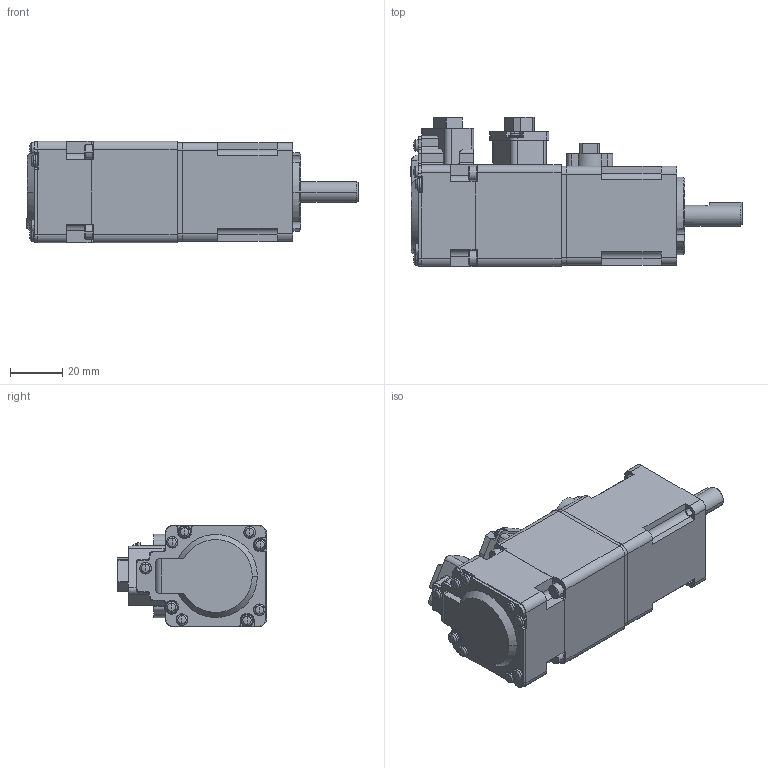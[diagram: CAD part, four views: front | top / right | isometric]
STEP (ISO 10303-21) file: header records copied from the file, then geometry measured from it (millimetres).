
FILE_DESCRIPTION( ( '' ), '1' );
FILE_NAME( '//expscmdclustefs.cadenas.external/client_exchange/iodir/jobs/output/wkb53693784_no0/STEP/MSME5AZG1V_1__2_03.stp', '2013-01-27T21:40:35', ( '' ), ( '' ), ' ', ' ', ' ' );
FILE_SCHEMA( ( 'CONFIG_CONTROL_DESIGN' ) );
Length unit declared in the file: millimetre
Products named in the file (1): 1
Bounding box: 127.5 x 57.3 x 39 mm (x, y, z)
Volume: 159312.8 mm3; surface area: 26483.2 mm2
Topology: 1 solids, 1 shells, 737 faces, 1948 edges, 1263 vertices
Faces by surface type: plane 390, cylinder 249, cone 50, torus 48
Entity records: 22901 total; most frequent: CARTESIAN_POINT 4083, DIRECTION 4057, ORIENTED_EDGE 3840, EDGE_CURVE 1920, AXIS2_PLACEMENT_3D 1419, VERTEX_POINT 1263, LINE 1219, VECTOR 1219
